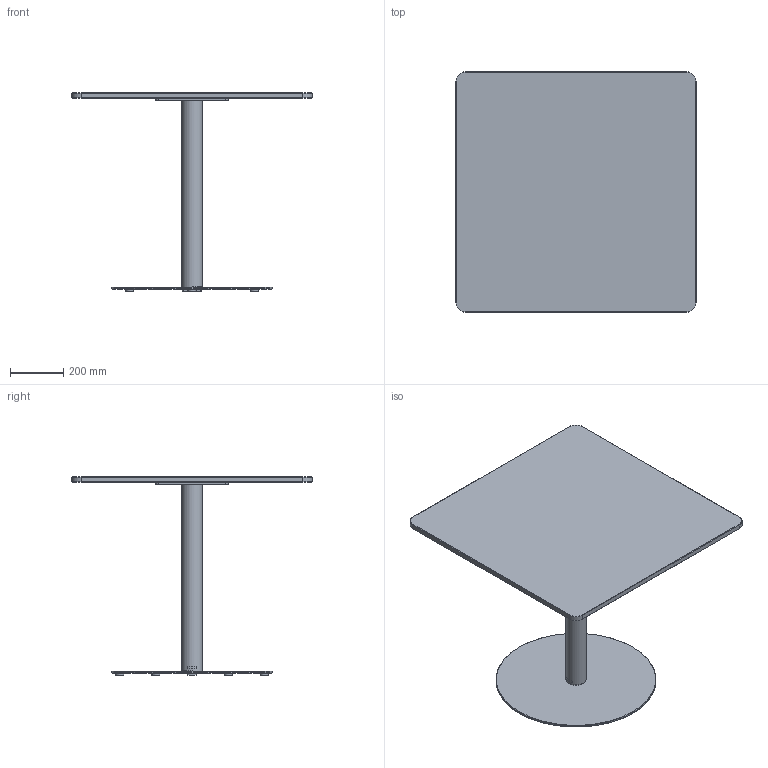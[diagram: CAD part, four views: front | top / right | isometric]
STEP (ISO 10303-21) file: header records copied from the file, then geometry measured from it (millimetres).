
FILE_DESCRIPTION( ('This file contains a STEP AP42 implementation' ,'as created by ZW3D STEP Interface translator.') ,'2;1' );
FILE_NAME( 'Henri - B_Rond - F3 - M1 - 900 x 900 x 750.stp' ,'24 912.153844', (''), ('ZWCAD Software Co.'), 'Version 1.0', 'ZW3D to STEP translator', '' );
FILE_SCHEMA(('AUTOMOTIVE_DESIGN { 1 0 10303 214 1 1 1 1 }'));
Length unit declared in the file: millimetre
Products named in the file (14): 0; PIED BISTROT PARAMETRIQUE_; COLONNE ACIER Ø76 V.02_; TUB-D076-02_; PLA-R76B-01_; CROIX ACIER 370 V.02_; CRX-X370-02_; SOCLE ACIER C Ø600 V.02_; SCL-D600-02_; PLA-R30A-01_; PLA-R30A-01; WUERTH 0276063020 Euro-screw 6.3x2 Verzinkt_; PLATEAU BISTROT PARAMETRIQUE_; insert_m6_13_
Assembly tree (24 placements, depth 3):
  0
  PIED BISTROT PARAMETRIQUE_
    COLONNE ACIER Ø76 V.02_
      TUB-D076-02_
      PLA-R76B-01_  x2
    CROIX ACIER 370 V.02_
      CRX-X370-02_
    SOCLE ACIER C Ø600 V.02_
      SCL-D600-02_
      PLA-R30A-01_
      PLA-R30A-01  x5
    WUERTH 0276063020 Euro-screw 6.3x2 Verzinkt_
    PLATEAU BISTROT PARAMETRIQUE_
      insert_m6_13_  x8
Bounding box: 900 x 900 x 744 mm (x, y, z)
Volume: 19381913.3 mm3; surface area: 2787547 mm2
Topology: 21 solids, 21 shells, 524 faces, 1273 edges, 802 vertices
Faces by surface type: plane 254, bspline 121, cylinder 99, cone 49, torus 1
Full cylindrical faces by diameter (mm): 4.88 x1, 6 x8, 6.3 x1, 8 x47, 12 x2, 14 x2, 30 x6, 72 x1, 76 x1, 600 x1
Entity records: 11734 total; most frequent: CARTESIAN_POINT 3302, ORIENTED_EDGE 1526, DIRECTION 1424, EDGE_CURVE 763, VERTEX_POINT 490, VECTOR 476, LINE 476, AXIS2_PLACEMENT_3D 474
